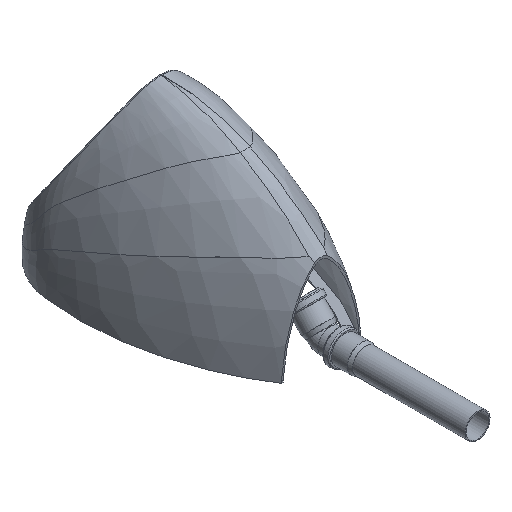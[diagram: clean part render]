
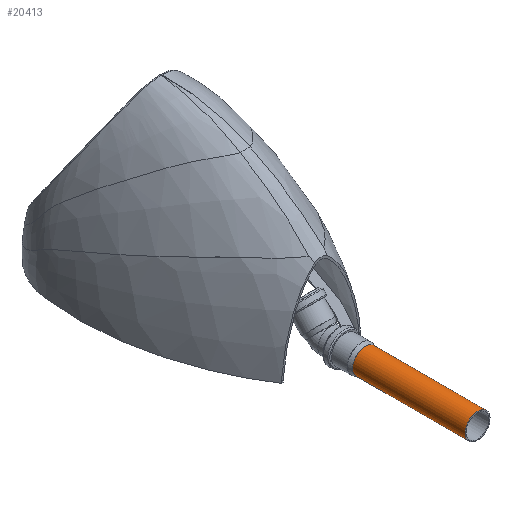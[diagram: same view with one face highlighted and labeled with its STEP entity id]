
A CAD part, isometric view. The second image highlights one B-rep face of the part: STEP entity #20413.
In plain terms, the highlighted cylindrical face has radius 25 mm (diameter 50 mm), a full revolution.
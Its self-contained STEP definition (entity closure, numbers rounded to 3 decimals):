
#20347=CARTESIAN_POINT('',(-25.,225.0,0.0));
#20348=VERTEX_POINT('',#20347);
#20349=CARTESIAN_POINT('',(0.,225.0,0.0));
#20350=DIRECTION('',(0.0,1.,0.0));
#20351=DIRECTION('',(-0.707,0.0,-0.707));
#20352=AXIS2_PLACEMENT_3D('',#20349,#20350,#20351);
#20353=CIRCLE('',#20352,25.);
#20354=EDGE_CURVE('',#20348,#20348,#20353,.F.);
#20387=CARTESIAN_POINT('',(0.,0.,-25.0));
#20388=VERTEX_POINT('',#20387);
#20389=CARTESIAN_POINT('',(0.,0.0,0.0));
#20390=DIRECTION('',(0.0,1.0,0.0));
#20391=DIRECTION('',(0.707,0.0,-0.707));
#20392=AXIS2_PLACEMENT_3D('',#20389,#20390,#20391);
#20393=CIRCLE('',#20392,25.);
#20394=EDGE_CURVE('',#20388,#20388,#20393,.T.);
#20402=CARTESIAN_POINT('',(0.,56.25,0.0));
#20403=DIRECTION('',(0.,1.0,0.0));
#20404=DIRECTION('',(-0.707,0.0,0.707));
#20405=AXIS2_PLACEMENT_3D('',#20402,#20403,#20404);
#20406=CYLINDRICAL_SURFACE('',#20405,25.);
#20407=ORIENTED_EDGE('',*,*,#20394,.T.);
#20408=EDGE_LOOP('',(#20407));
#20409=FACE_OUTER_BOUND('',#20408,.T.);
#20410=ORIENTED_EDGE('',*,*,#20354,.T.);
#20411=EDGE_LOOP('',(#20410));
#20412=FACE_BOUND('',#20411,.T.);
#20413=ADVANCED_FACE('',(#20409,#20412),#20406,.T.);
